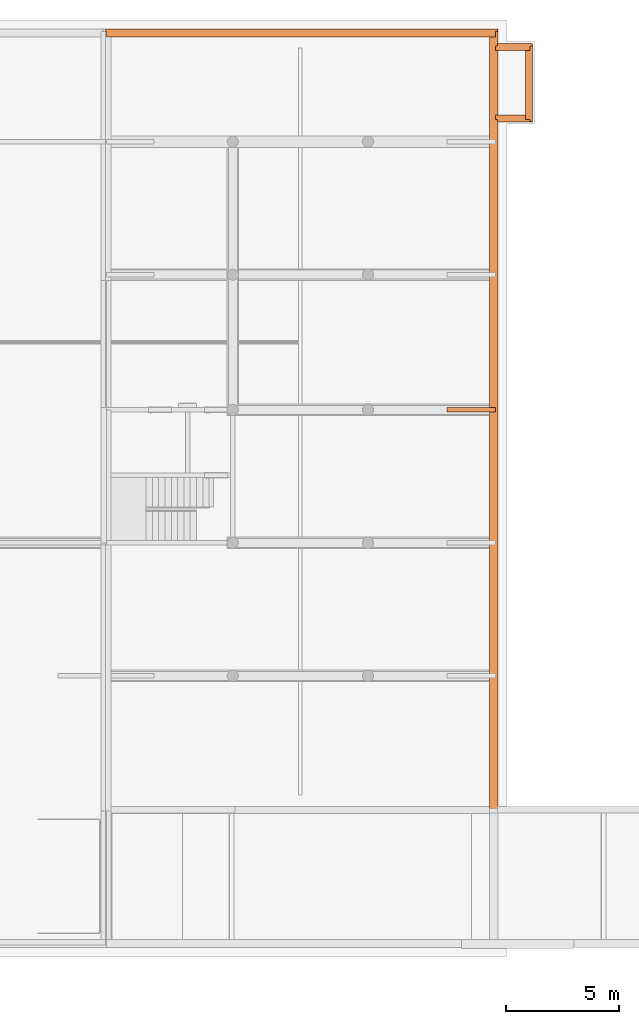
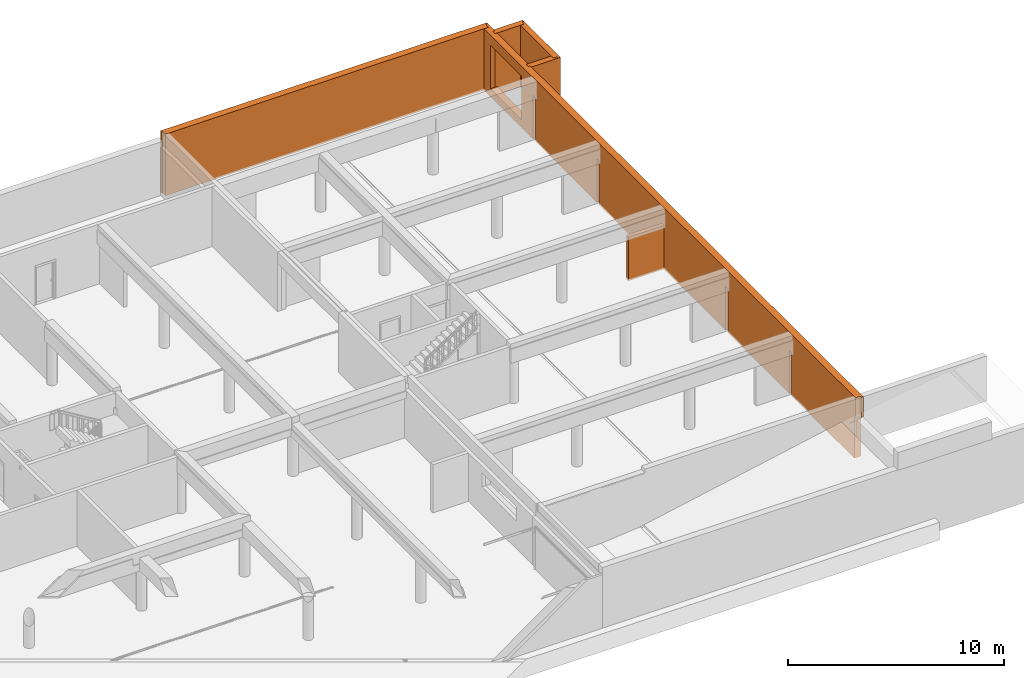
# One storey, part 25 of 25: 6 proxies, 1 opening.
"""IFC2X3 building model written with IfcOpenShell, lengths in millimetres."""

from ifc_helpers import new_model, entity, si_unit, converted_unit, derived_unit, money_unit, direction, frame, origin_with_axes, origin_2d_with_axis, place, context, subcontext, project, spatial, rectangle, extrude, faceted_brep, material, material_list, type_object, element, save


model = new_model("IFC2X3")

# Units and contexts
model_context = context("Model", 3, precision=0.01, world=origin_with_axes(), true_north=direction((0.34421633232, 0.938890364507)))
body_context = subcontext(model_context, "Body", "Model", "MODEL_VIEW")
ifc_project = project(units=[si_unit("LENGTHUNIT", "METRE", prefix="MILLI"), si_unit("AREAUNIT", "SQUARE_METRE"), si_unit("VOLUMEUNIT", "CUBIC_METRE"), converted_unit("PLANEANGLEUNIT", "DEGREE", entity("IfcPlaneAngleMeasure", 0.0174532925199), si_unit("PLANEANGLEUNIT", "RADIAN"), dimensions=[0, 0, 0, 0, 0, 0, 0]), si_unit("SOLIDANGLEUNIT", "STERADIAN"), money_unit("USD"), converted_unit("TIMEUNIT", "Year", entity("IfcTimeMeasure", 31556926.0), si_unit("TIMEUNIT", "SECOND"), dimensions=[0, 0, 1, 0, 0, 0, 0]), si_unit("MASSUNIT", "GRAM", prefix="KILO"), si_unit("THERMODYNAMICTEMPERATUREUNIT", "DEGREE_CELSIUS"), si_unit("LUMINOUSINTENSITYUNIT", "LUMEN"), si_unit("ENERGYUNIT", "JOULE", prefix="MEGA"), derived_unit("THERMALCONDUCTANCEUNIT", [(si_unit("POWERUNIT", "WATT"), 1), (si_unit("LENGTHUNIT", "METRE"), -1), (si_unit("THERMODYNAMICTEMPERATUREUNIT", "KELVIN"), -1)]), derived_unit("SPECIFICHEATCAPACITYUNIT", [(si_unit("ENERGYUNIT", "JOULE"), 1), (si_unit("MASSUNIT", "GRAM", prefix="KILO"), -1), (si_unit("THERMODYNAMICTEMPERATUREUNIT", "KELVIN"), -1)]), derived_unit("MASSDENSITYUNIT", [(si_unit("MASSUNIT", "GRAM", prefix="KILO"), 1), (si_unit("VOLUMEUNIT", "CUBIC_METRE"), -1)])], contexts=[model_context])

# Site, building, storey
site_placement = place(None, origin_with_axes())
site = spatial("IfcSite", under=ifc_project, at=site_placement, Name="USTRONIE MORSKIE", CompositionType="ELEMENT")
building_placement = place(site_placement, origin_with_axes())
building = spatial("IfcBuilding", under=site, at=building_placement, Name="Budynek", CompositionType="ELEMENT")
storey_placement = place(building_placement, frame((0.0, 0.0, -3600.0), z_axis=(0.0, 0.0, 1.0), x_axis=(1.0, 0.0, 0.0)))
storey = spatial("IfcBuildingStorey", under=building, at=storey_placement, Name="GARAZ", CompositionType="ELEMENT", Elevation=-3600.0)

# Proxies
ifc_material_1 = material(Name="Beton konstrukcyjny 01")
ifc_material_2 = material(Name="Płyty styropianowe twarde HIGH-PRIORITY")
ifc_material_3 = material(Name="Membrana przeciwwilgociowa")
ifc_material_list_1 = material_list([ifc_material_1, ifc_material_2, ifc_material_3])
building_element_proxy_type_1 = type_object("IfcBuildingElementProxyType", Name="20+10 GARAŻ 310", PredefinedType="NOTDEFINED")
proxy_1_placement = place(storey_placement, frame((425567.920919, 745791.199036, -800.0), z_axis=(0.0, 0.0, 1.0), x_axis=(1.0, 0.0, 0.0)))
element("IfcBuildingElementProxy", 1, at=proxy_1_placement, inside=storey, type_object=building_element_proxy_type_1, material=ifc_material_list_1, Name="Œciana-006", context=body_context, shape_type="Brep", body=[
    faceted_brep([(1500.0, -100.0, 700.0), (1500.0, 100.0, 700.0), (1500.0, 100.0, 4170.0), (1500.0, -100.0, 4170.0), (150.0, 100.0, 700.0), (150.0, -100.0, 700.0), (150.0, 100.0, 4170.0), (150.0, -100.0, 4170.0)], [[[0, 1, 2, 3]], [[4, 1, 0, 5]], [[1, 4, 6, 2]], [[3, 2, 6, 7]], [[5, 0, 3, 7]], [[4, 5, 7, 6]]]),
    faceted_brep([(1700.0, -200.0, 700.0), (1700.0, -100.0, 700.0), (1700.0, -100.0, 4170.0), (1700.0, -200.0, 4170.0), (250.0, -100.0, 700.0), (250.0, -200.0, 700.0), (250.0, -100.0, 4170.0), (250.0, -200.0, 4170.0)], [[[0, 1, 2, 3]], [[4, 1, 0, 5]], [[1, 4, 6, 2]], [[3, 2, 6, 7]], [[5, 0, 3, 7]], [[4, 5, 7, 6]]]),
    faceted_brep([(1800.0, -210.0, 800.0), (1800.0, -200.0, 800.0), (1800.0, -200.0, 4170.0), (1800.0, -210.0, 4170.0), (260.0, -200.0, 800.0), (260.0, -210.0, 800.0), (260.0, -200.0, 4170.0), (260.0, -210.0, 4170.0)], [[[0, 1, 2, 3]], [[4, 1, 0, 5]], [[1, 4, 6, 2]], [[3, 2, 6, 7]], [[5, 0, 3, 7]], [[4, 5, 7, 6]]]),
])
ifc_material_list_2 = material_list([ifc_material_3, ifc_material_2, ifc_material_1])
proxy_2_placement = place(storey_placement, frame((427167.920919, 748851.199036, -800.0), z_axis=(0.0, 0.0, 1.0), x_axis=(0.0, -1.0, 0.0)))
element("IfcBuildingElementProxy", 2, at=proxy_2_placement, inside=storey, type_object=building_element_proxy_type_1, material=ifc_material_list_2, Name="Œciana-006", context=body_context, shape_type="Brep", body=[
    faceted_brep([(3270.0, 210.0, 800.0), (-200.0, 210.0, 800.0), (-200.0, 210.0, 4170.0), (3270.0, 210.0, 4170.0), (-200.0, 200.0, 800.0), (3270.0, 200.0, 800.0), (-200.0, 200.0, 4170.0), (3270.0, 200.0, 4170.0)], [[[0, 1, 2, 3]], [[4, 1, 0, 5]], [[1, 4, 6, 2]], [[7, 3, 2, 6]], [[5, 0, 3, 7]], [[4, 5, 7, 6]]]),
    faceted_brep([(3260.0, 200.0, 700.0), (-100.0, 200.0, 700.0), (-100.0, 200.0, 4170.0), (3260.0, 200.0, 4170.0), (-100.0, 100.0, 700.0), (3260.0, 100.0, 700.0), (-100.0, 100.0, 4170.0), (3260.0, 100.0, 4170.0)], [[[0, 1, 2, 3]], [[4, 1, 0, 5]], [[1, 4, 6, 2]], [[7, 3, 2, 6]], [[5, 0, 3, 7]], [[4, 5, 7, 6]]]),
    faceted_brep([(3160.0, 100.0, 700.0), (100.0, 100.0, 700.0), (100.0, 100.0, 4170.0), (3160.0, 100.0, 4170.0), (100.0, -100.0, 700.0), (3160.0, -100.0, 700.0), (100.0, -100.0, 4170.0), (3160.0, -100.0, 4170.0)], [[[0, 1, 2, 3]], [[4, 1, 0, 5]], [[1, 4, 6, 2]], [[7, 3, 2, 6]], [[5, 0, 3, 7]], [[4, 5, 7, 6]]]),
])
proxy_3_placement = place(storey_placement, frame((425567.920919, 748851.199036, -800.0), z_axis=(0.0, 0.0, 1.0), x_axis=(1.0, 0.0, 0.0)))
element("IfcBuildingElementProxy", 3, at=proxy_3_placement, inside=storey, type_object=building_element_proxy_type_1, material=ifc_material_list_2, Name="Œciana-006", context=body_context, shape_type="Brep", body=[
    faceted_brep([(1810.0, 200.0, 800.0), (1810.0, 210.0, 800.0), (1810.0, 210.0, 4170.0), (1810.0, 200.0, 4170.0), (260.0, 210.0, 800.0), (260.0, 200.0, 800.0), (260.0, 210.0, 4170.0), (260.0, 200.0, 4170.0)], [[[0, 1, 2, 3]], [[4, 1, 0, 5]], [[1, 4, 6, 2]], [[3, 2, 6, 7]], [[5, 0, 3, 7]], [[4, 5, 7, 6]]]),
    faceted_brep([(1800.0, 100.0, 700.0), (1800.0, 200.0, 700.0), (1800.0, 200.0, 4170.0), (1800.0, 100.0, 4170.0), (250.0, 200.0, 700.0), (250.0, 100.0, 700.0), (250.0, 200.0, 4170.0), (250.0, 100.0, 4170.0)], [[[0, 1, 2, 3]], [[4, 1, 0, 5]], [[1, 4, 6, 2]], [[3, 2, 6, 7]], [[5, 0, 3, 7]], [[4, 5, 7, 6]]]),
    faceted_brep([(1700.0, -100.0, 700.0), (1700.0, 100.0, 700.0), (1700.0, 100.0, 4170.0), (1700.0, -100.0, 4170.0), (150.0, 100.0, 700.0), (150.0, -100.0, 700.0), (150.0, 100.0, 4170.0), (150.0, -100.0, 4170.0)], [[[0, 1, 2, 3]], [[4, 1, 0, 5]], [[1, 4, 6, 2]], [[3, 2, 6, 7]], [[5, 0, 3, 7]], [[4, 5, 7, 6]]]),
])
building_element_proxy_type_2 = type_object("IfcBuildingElementProxyType", Name="Beton konstrukcyjny 01 200", PredefinedType="NOTDEFINED")
proxy_4_placement = place(storey_placement, frame((425567.920919, 732801.199036, -100.0), z_axis=(0.0, 0.0, 1.0), x_axis=(-1.0, 0.0, 0.0)))
element("IfcBuildingElementProxy", 4, at=proxy_4_placement, inside=storey, type_object=building_element_proxy_type_2, material=ifc_material_1, Name="SW-01", context=body_context, shape_type="Brep", body=[
    faceted_brep([(-150.0, 100.0, 2470.00000745), (-150.0, -100.0, 2470.00000745), (2000.0, -100.0, 2470.00000745), (2000.0, 100.0, 2470.00000745), (-150.0, 100.0, 0.0), (-150.0, -100.0, 0.0), (2000.0, -100.0, 0.0), (2000.0, 100.0, 0.0)], [[[0, 1, 2, 3]], [[4, 5, 1, 0]], [[1, 5, 6, 2]], [[7, 3, 2, 6]], [[4, 0, 3, 7]], [[5, 4, 7, 6]]]),
])
building_element_proxy_type_3 = type_object("IfcBuildingElementProxyType", Name="25+10 GARAŻ 360", PredefinedType="NOTDEFINED")
proxy_5_placement = place(storey_placement, frame((425567.920919, 749451.199036, -800.0), z_axis=(0.0, 0.0, 1.0), x_axis=(-1.0, 0.0, 0.0)))
element("IfcBuildingElementProxy", 5, at=proxy_5_placement, inside=storey, type_object=building_element_proxy_type_3, material=ifc_material_list_1, Name="SZ-02", context=body_context, shape_type="Brep", body=[
    faceted_brep([(-150.0, 99.999999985, 700.0), (-150.0, -149.999999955, 700.0), (-150.0, -150.0, 4170.0), (-150.0, 100.0, 4170.0), (17000.0, -149.99999553, 700.0), (17000.0, 99.9999985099, 700.0), (17100.0, -149.99999553, 700.0), (17100.0, -150.0, 4170.0), (17100.0, 100.0, 4170.0), (17100.0, 99.9999985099, 700.0)], [[[0, 1, 2, 3]], [[4, 1, 0, 5]], [[1, 4, 6, 7, 2]], [[2, 7, 8, 3]], [[5, 0, 3, 8, 9]], [[4, 5, 9, 6]], [[9, 8, 7, 6]]]),
    faceted_brep([(-250.0, -149.999999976, 700.0), (-250.0, -250.000000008, 700.0), (-250.0, -250.0, 4170.0), (-250.0, -150.0, 4170.0), (17000.0, -250.00000149, 700.0), (17000.0, -149.99999553, 700.0), (17150.0000024, -250.00000149, 700.0), (17150.0000024, -250.0, 4170.0), (17150.0000024, -150.0, 4170.0), (17150.0000024, -149.99999553, 700.0)], [[[0, 1, 2, 3]], [[4, 1, 0, 5]], [[1, 4, 6, 7, 2]], [[2, 7, 8, 3]], [[5, 0, 3, 8, 9]], [[4, 5, 9, 6]], [[7, 6, 9, 8]]]),
    faceted_brep([(-260.0, -250.000000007, 800.0), (-260.0, -260.0, 800.0), (-260.0, -260.0, 4170.0), (-260.0, -250.0, 4170.0), (17150.0000024, -260.0, 800.0), (17150.0000024, -250.000001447, 800.0), (17150.0000024, -260.0, 4170.0), (17150.0000024, -250.0, 4170.0)], [[[0, 1, 2, 3]], [[4, 1, 0, 5]], [[1, 4, 6, 2]], [[2, 6, 7, 3]], [[5, 0, 3, 7]], [[4, 5, 7, 6]]]),
])

# Proxy, opening
proxy_6_placement = place(storey_placement, frame((425567.920919, 715101.199036, -800.0), z_axis=(0.0, 0.0, 1.0), x_axis=(0.0, 1.0, 0.0)))
proxy_6 = element("IfcBuildingElementProxy", 6, at=proxy_6_placement, inside=storey, type_object=building_element_proxy_type_3, material=ifc_material_list_1, Name="SZ-02", context=body_context, shape_type="Brep", body=[
    faceted_brep([(29700.0, -150.0, 3170.00000745), (29700.0, -150.0, 700.0), (34250.0, -149.999999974, 700.0), (34250.0, -150.0, 4170.0), (-100.0, -150.0, 4170.0), (-100.0, -149.999997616, 3040.0), (0.0, -149.999997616, 3040.0), (0.0, -149.999997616, 700.0), (5800.0, -150.0, 700.0), (5800.0, -150.0, 3170.00000745), (6000.0, -150.0, 3170.00000745), (6000.0, -150.0, 700.0), (11700.0, -150.0, 700.0), (11700.0, -150.0, 3170.00000745), (11900.0, -150.0, 3170.00000745), (11900.0, -150.0, 700.0), (17600.0, -150.0, 700.0), (17600.0, -150.0, 3170.00000745), (17800.0, -150.0, 3170.00000745), (17800.0, -150.0, 700.0), (23600.0, -150.0, 700.0), (23600.0, -150.0, 3170.00000745), (23800.0, -150.0, 3170.00000745), (23800.0, -150.0, 700.0), (29500.0, -150.0, 700.0), (29500.0, -150.0, 3170.00000745), (29700.0, 100.000011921, 3170.00000745), (29700.0, 100.000011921, 700.0), (34250.0, 100.000000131, 700.0), (34250.0, 100.0, 4170.0), (-100.0, 100.0, 4170.0), (-100.0, 100.000011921, 3040.0), (0.0, 100.000011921, 3040.0), (0.0, 100.000011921, 700.0), (5800.0, 100.000011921, 700.0), (5800.0, 100.000011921, 3170.00000745), (6000.0, 100.000011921, 3170.00000745), (6000.0, 100.000011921, 700.0), (11700.0, 100.000011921, 700.0), (11700.0, 100.000011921, 3170.00000745), (11900.0, 100.000011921, 3170.00000745), (11900.0, 100.000011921, 700.0), (17600.0, 100.000011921, 700.0), (17600.0, 100.000011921, 3170.00000745), (17800.0, 100.000011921, 3170.00000745), (17800.0, 100.000011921, 700.0), (23600.0, 100.000011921, 700.0), (23600.0, 100.000011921, 3170.00000745), (23800.0, 100.000011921, 3170.00000745), (23800.0, 100.000011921, 700.0), (29500.0, 100.000011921, 700.0), (29500.0, 100.000011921, 3170.00000745)], [[[0, 1, 2, 3, 4, 5, 6, 7, 8, 9, 10, 11, 12, 13, 14, 15, 16, 17, 18, 19, 20, 21, 22, 23, 24, 25]], [[26, 27, 1, 0]], [[27, 28, 2, 1]], [[3, 2, 28, 29]], [[3, 29, 30, 4]], [[30, 31, 5, 4]], [[32, 6, 5, 31]], [[32, 33, 7, 6]], [[33, 34, 8, 7]], [[9, 8, 34, 35]], [[35, 36, 10, 9]], [[36, 37, 11, 10]], [[37, 38, 12, 11]], [[13, 12, 38, 39]], [[39, 40, 14, 13]], [[40, 41, 15, 14]], [[41, 42, 16, 15]], [[17, 16, 42, 43]], [[43, 44, 18, 17]], [[44, 45, 19, 18]], [[45, 46, 20, 19]], [[21, 20, 46, 47]], [[47, 48, 22, 21]], [[48, 49, 23, 22]], [[49, 50, 24, 23]], [[25, 24, 50, 51]], [[51, 26, 0, 25]], [[29, 28, 27, 26, 51, 50, 49, 48, 47, 46, 45, 44, 43, 42, 41, 40, 39, 38, 37, 36, 35, 34, 33, 32, 31, 30]]]),
    faceted_brep([(0.0, -249.999983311, 700.0), (30590.0, -249.999998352, 700.0), (30590.0, -250.0, 4170.0), (-200.0, -250.0, 4170.0), (-200.0, -249.999983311, 3040.0), (0.0, -249.999983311, 3040.0), (30590.0, -149.999999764, 700.0), (0.0, -149.999997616, 700.0), (30590.0, -150.0, 4170.0), (-200.0, -150.0, 4170.0), (-200.0, -149.999997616, 3040.0), (0.0, -149.999997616, 3040.0)], [[[0, 1, 2, 3, 4, 5]], [[6, 1, 0, 7]], [[1, 6, 8, 2]], [[8, 9, 3, 2]], [[10, 4, 3, 9]], [[5, 4, 10, 11]], [[7, 0, 5, 11]], [[6, 7, 11, 10, 9, 8]]]),
    faceted_brep([(33850.0, -249.999999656, 700.0), (34500.0, -249.999999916, 700.0), (34500.0, -250.0, 4170.0), (33850.0, -250.0, 4170.0), (34500.0, -149.999999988, 700.0), (33850.0, -149.999999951, 700.0), (34500.0, -150.0, 4170.0), (33850.0, -150.0, 4170.0)], [[[0, 1, 2, 3]], [[4, 1, 0, 5]], [[1, 4, 6, 2]], [[7, 3, 2, 6]], [[5, 0, 3, 7]], [[4, 5, 7, 6]]]),
    faceted_brep([(30790.0, -249.999998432, 700.0), (33650.0, -249.999999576, 700.0), (33650.0, -250.0, 4170.0), (30790.0, -250.0, 4170.0), (33650.0, -149.999999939, 700.0), (30790.0, -149.999999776, 700.0), (33650.0, -150.0, 4170.0), (30790.0, -150.0, 4170.0)], [[[0, 1, 2, 3]], [[4, 1, 0, 5]], [[1, 4, 6, 2]], [[7, 3, 2, 6]], [[5, 0, 3, 7]], [[4, 5, 7, 6]]]),
    faceted_brep([(33950.0, -260.0, 800.0), (34600.0, -260.0, 800.0), (34600.0, -260.0, 4170.0), (33950.0, -260.0, 4170.0), (34600.0, -249.999999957, 800.0), (33950.0, -249.999999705, 800.0), (34600.0, -250.0, 4170.0), (33950.0, -250.0, 4170.0)], [[[0, 1, 2, 3]], [[4, 1, 0, 5]], [[1, 4, 6, 2]], [[7, 3, 2, 6]], [[5, 0, 3, 7]], [[4, 5, 7, 6]]]),
    faceted_brep([(30790.0, -260.0, 800.0), (33650.0, -260.0, 800.0), (33650.0, -260.0, 4170.0), (30790.0, -260.0, 4170.0), (33650.0, -249.999999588, 800.0), (30790.0, -249.999998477, 800.0), (33650.0, -250.0, 4170.0), (30790.0, -250.0, 4170.0)], [[[0, 1, 2, 3]], [[4, 1, 0, 5]], [[1, 4, 6, 2]], [[7, 3, 2, 6]], [[5, 0, 3, 7]], [[4, 5, 7, 6]]]),
    faceted_brep([(0.0, -260.0, 800.0), (30490.0, -260.0, 800.0), (30490.0, -260.0, 4170.0), (-210.000004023, -260.0, 4170.0), (-210.000004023, -260.0, 3040.0), (0.0, -260.0, 3040.0), (30490.0, -249.99999836, 800.0), (0.0, -249.999983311, 800.0), (30490.0, -250.0, 4170.0), (-210.000004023, -250.0, 4170.0), (-210.000004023, -249.999983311, 3040.0), (0.0, -249.999983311, 3040.0)], [[[0, 1, 2, 3, 4, 5]], [[6, 1, 0, 7]], [[1, 6, 8, 2]], [[8, 9, 3, 2]], [[10, 4, 3, 9]], [[5, 4, 10, 11]], [[7, 0, 5, 11]], [[6, 7, 11, 10, 9, 8]]]),
])
opening_placement = place(proxy_6_placement, frame((32220.0, 0.0, 1150.0), z_axis=(0.0, 0.0, 1.0), x_axis=(1.0, 0.0, 0.0)))
element("IfcOpeningElement", 7, at=opening_placement, cuts=proxy_6, Name="Okna-005", context=body_context, shape_type="SweptSolid", body=[
    extrude(rectangle(XDim=2860.0, YDim=2450.0, at=origin_2d_with_axis()), frame((0.0, 100.0, 1225.0), z_axis=(0.0, -1.0, 0.0), x_axis=(1.0, 0.0, 0.0)), (0.0, 0.0, -1.0), 360.0),
    extrude(rectangle(XDim=2860.0, YDim=2450.0, at=origin_2d_with_axis()), frame((0.0, 100.0, 1225.0), z_axis=(0.0, 1.0, 0.0), x_axis=(1.0, 0.0, 0.0)), (0.0, 0.0, -1.0), 360.0),
])

save(model, "model.ifc")
